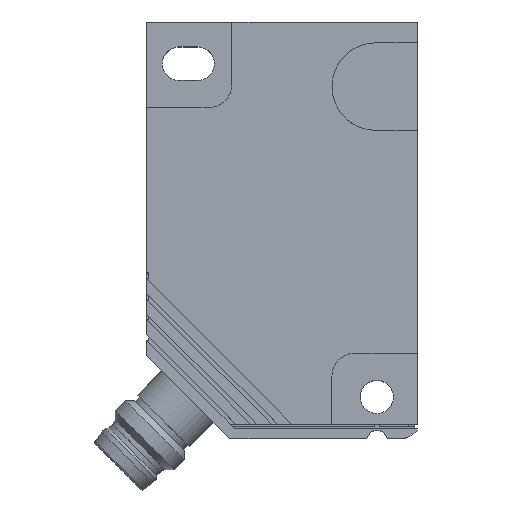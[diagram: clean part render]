
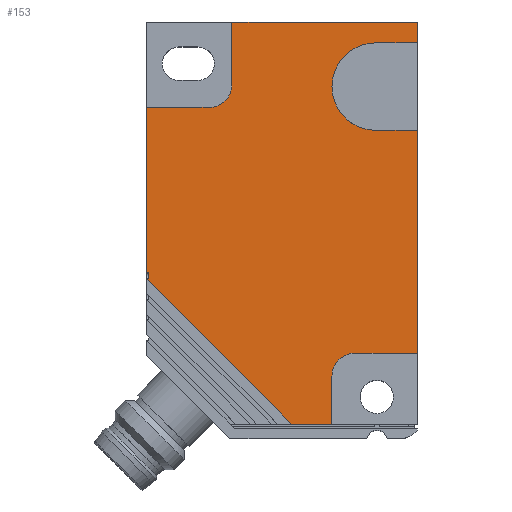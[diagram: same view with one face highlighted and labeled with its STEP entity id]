
A CAD part, top view. The second image highlights one B-rep face of the part: STEP entity #153.
In plain terms, the highlighted planar face has unit normal (0, 0, 1).
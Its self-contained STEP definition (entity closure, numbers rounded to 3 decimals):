
#153 = ADVANCED_FACE( '', ( #473 ), #474, .T. );
#473 = FACE_OUTER_BOUND( '', #971, .T. );
#474 = PLANE( '', #972 );
#971 = EDGE_LOOP( '', ( #1980, #1981, #1982, #1983, #1984, #1985, #1986, #1987, #1988, #1989, #1990, #1991, #1992, #1993, #1994, #1995, #1996, #1997, #1998 ) );
#972 = AXIS2_PLACEMENT_3D( '', #1999, #2000, #2001 );
#1980 = ORIENTED_EDGE( '', *, *, #3547, .T. );
#1981 = ORIENTED_EDGE( '', *, *, #3548, .T. );
#1982 = ORIENTED_EDGE( '', *, *, #3541, .T. );
#1983 = ORIENTED_EDGE( '', *, *, #3492, .F. );
#1984 = ORIENTED_EDGE( '', *, *, #3549, .T. );
#1985 = ORIENTED_EDGE( '', *, *, #3367, .T. );
#1986 = ORIENTED_EDGE( '', *, *, #3550, .T. );
#1987 = ORIENTED_EDGE( '', *, *, #3551, .T. );
#1988 = ORIENTED_EDGE( '', *, *, #3552, .T. );
#1989 = ORIENTED_EDGE( '', *, *, #3553, .F. );
#1990 = ORIENTED_EDGE( '', *, *, #3554, .T. );
#1991 = ORIENTED_EDGE( '', *, *, #3555, .T. );
#1992 = ORIENTED_EDGE( '', *, *, #3556, .T. );
#1993 = ORIENTED_EDGE( '', *, *, #3557, .F. );
#1994 = ORIENTED_EDGE( '', *, *, #3558, .F. );
#1995 = ORIENTED_EDGE( '', *, *, #3559, .T. );
#1996 = ORIENTED_EDGE( '', *, *, #3560, .T. );
#1997 = ORIENTED_EDGE( '', *, *, #3561, .T. );
#1998 = ORIENTED_EDGE( '', *, *, #3496, .F. );
#1999 = CARTESIAN_POINT( '', ( 0., 0., 5.75 ) );
#2000 = DIRECTION( '', ( 0., 0., 1. ) );
#2001 = DIRECTION( '', ( 1., 0., 0. ) );
#3367 = EDGE_CURVE( '', #4089, #4087, #4090, .T. );
#3492 = EDGE_CURVE( '', #4306, #4308, #4309, .T. );
#3496 = EDGE_CURVE( '', #4314, #4316, #4317, .T. );
#3541 = EDGE_CURVE( '', #4390, #4308, #4391, .T. );
#3547 = EDGE_CURVE( '', #4314, #4398, #4400, .T. );
#3548 = EDGE_CURVE( '', #4398, #4390, #4401, .T. );
#3549 = EDGE_CURVE( '', #4306, #4089, #4402, .T. );
#3550 = EDGE_CURVE( '', #4087, #4403, #4404, .T. );
#3551 = EDGE_CURVE( '', #4403, #4405, #4406, .T. );
#3552 = EDGE_CURVE( '', #4405, #4407, #4408, .T. );
#3553 = EDGE_CURVE( '', #4409, #4407, #4410, .T. );
#3554 = EDGE_CURVE( '', #4409, #4411, #4412, .T. );
#3555 = EDGE_CURVE( '', #4411, #4413, #4414, .T. );
#3556 = EDGE_CURVE( '', #4413, #4415, #4416, .T. );
#3557 = EDGE_CURVE( '', #4417, #4415, #4418, .T. );
#3558 = EDGE_CURVE( '', #4419, #4417, #4420, .T. );
#3559 = EDGE_CURVE( '', #4419, #4421, #4422, .T. );
#3560 = EDGE_CURVE( '', #4421, #4423, #4424, .T. );
#3561 = EDGE_CURVE( '', #4423, #4316, #4425, .T. );
#4087 = VERTEX_POINT( '', #5176 );
#4089 = VERTEX_POINT( '', #5179 );
#4090 = LINE( '', #5180, #5181 );
#4306 = VERTEX_POINT( '', #5512 );
#4308 = VERTEX_POINT( '', #5515 );
#4309 = LINE( '', #5516, #5517 );
#4314 = VERTEX_POINT( '', #5523 );
#4316 = VERTEX_POINT( '', #5526 );
#4317 = LINE( '', #5527, #5528 );
#4390 = VERTEX_POINT( '', #5637 );
#4391 = LINE( '', #5638, #5639 );
#4398 = VERTEX_POINT( '', #5649 );
#4400 = LINE( '', #5652, #5653 );
#4401 = LINE( '', #5654, #5655 );
#4402 = LINE( '', #5656, #5657 );
#4403 = VERTEX_POINT( '', #5658 );
#4404 = LINE( '', #5659, #5660 );
#4405 = VERTEX_POINT( '', #5661 );
#4406 = CIRCLE( '', #5662, 2.2 );
#4407 = VERTEX_POINT( '', #5663 );
#4408 = LINE( '', #5664, #5665 );
#4409 = VERTEX_POINT( '', #5666 );
#4410 = LINE( '', #5667, #5668 );
#4411 = VERTEX_POINT( '', #5669 );
#4412 = LINE( '', #5670, #5671 );
#4413 = VERTEX_POINT( '', #5672 );
#4414 = CIRCLE( '', #5673, 4.2 );
#4415 = VERTEX_POINT( '', #5674 );
#4416 = LINE( '', #5675, #5676 );
#4417 = VERTEX_POINT( '', #5677 );
#4418 = LINE( '', #5678, #5679 );
#4419 = VERTEX_POINT( '', #5680 );
#4420 = LINE( '', #5681, #5682 );
#4421 = VERTEX_POINT( '', #5683 );
#4422 = LINE( '', #5684, #5685 );
#4423 = VERTEX_POINT( '', #5686 );
#4424 = CIRCLE( '', #5687, 2.2 );
#4425 = LINE( '', #5688, #5689 );
#5176 = CARTESIAN_POINT( '', ( 4.8, 1.4, 5.75 ) );
#5179 = CARTESIAN_POINT( '', ( 0.95, 1.4, 5.75 ) );
#5180 = CARTESIAN_POINT( '', ( 0.95, 1.4, 5.75 ) );
#5181 = VECTOR( '', #6566, 1. );
#5512 = CARTESIAN_POINT( '', ( -13., 15.35, 5.75 ) );
#5515 = CARTESIAN_POINT( '', ( -13., 15.354, 5.75 ) );
#5516 = CARTESIAN_POINT( '', ( -13., 20., 5.75 ) );
#5517 = VECTOR( '', #6707, 1. );
#5523 = CARTESIAN_POINT( '', ( -13., 15.904, 5.75 ) );
#5526 = CARTESIAN_POINT( '', ( -13., 31.8, 5.75 ) );
#5527 = CARTESIAN_POINT( '', ( -13., 20., 5.75 ) );
#5528 = VECTOR( '', #6713, 1. );
#5637 = CARTESIAN_POINT( '', ( -12.8, 15.354, 5.75 ) );
#5638 = CARTESIAN_POINT( '', ( -6.4, 15.354, 5.75 ) );
#5639 = VECTOR( '', #6774, 1. );
#5649 = CARTESIAN_POINT( '', ( -12.8, 15.904, 5.75 ) );
#5652 = CARTESIAN_POINT( '', ( -6.4, 15.904, 5.75 ) );
#5653 = VECTOR( '', #6782, 1. );
#5654 = CARTESIAN_POINT( '', ( -12.8, 0., 5.75 ) );
#5655 = VECTOR( '', #6783, 1. );
#5656 = CARTESIAN_POINT( '', ( -13., 15.35, 5.75 ) );
#5657 = VECTOR( '', #6784, 1. );
#5658 = CARTESIAN_POINT( '', ( 4.8, 6., 5.75 ) );
#5659 = CARTESIAN_POINT( '', ( 4.8, 1.4, 5.75 ) );
#5660 = VECTOR( '', #6785, 1. );
#5661 = CARTESIAN_POINT( '', ( 7., 8.2, 5.75 ) );
#5662 = AXIS2_PLACEMENT_3D( '', #6786, #6787, #6788 );
#5663 = CARTESIAN_POINT( '', ( 13., 8.2, 5.75 ) );
#5664 = CARTESIAN_POINT( '', ( 7., 8.2, 5.75 ) );
#5665 = VECTOR( '', #6789, 1. );
#5666 = CARTESIAN_POINT( '', ( 13., 29.6, 5.75 ) );
#5667 = CARTESIAN_POINT( '', ( 13., 0.7, 5.75 ) );
#5668 = VECTOR( '', #6790, 1. );
#5669 = CARTESIAN_POINT( '', ( 9., 29.6, 5.75 ) );
#5670 = CARTESIAN_POINT( '', ( 13., 29.6, 5.75 ) );
#5671 = VECTOR( '', #6791, 1. );
#5672 = CARTESIAN_POINT( '', ( 9., 38., 5.75 ) );
#5673 = AXIS2_PLACEMENT_3D( '', #6792, #6793, #6794 );
#5674 = CARTESIAN_POINT( '', ( 13., 38., 5.75 ) );
#5675 = CARTESIAN_POINT( '', ( 9., 38., 5.75 ) );
#5676 = VECTOR( '', #6795, 1. );
#5677 = CARTESIAN_POINT( '', ( 13., 40., 5.75 ) );
#5678 = CARTESIAN_POINT( '', ( 13., 0.7, 5.75 ) );
#5679 = VECTOR( '', #6796, 1. );
#5680 = CARTESIAN_POINT( '', ( -4.8, 40., 5.75 ) );
#5681 = CARTESIAN_POINT( '', ( 6.5, 40., 5.75 ) );
#5682 = VECTOR( '', #6797, 1. );
#5683 = CARTESIAN_POINT( '', ( -4.8, 34., 5.75 ) );
#5684 = CARTESIAN_POINT( '', ( -4.8, 40., 5.75 ) );
#5685 = VECTOR( '', #6798, 1. );
#5686 = CARTESIAN_POINT( '', ( -7., 31.8, 5.75 ) );
#5687 = AXIS2_PLACEMENT_3D( '', #6799, #6800, #6801 );
#5688 = CARTESIAN_POINT( '', ( -7., 31.8, 5.75 ) );
#5689 = VECTOR( '', #6802, 1. );
#6566 = DIRECTION( '', ( 1., 0., 0. ) );
#6707 = DIRECTION( '', ( 0., 1., 0. ) );
#6713 = DIRECTION( '', ( 0., 1., 0. ) );
#6774 = DIRECTION( '', ( -1., 0., 0. ) );
#6782 = DIRECTION( '', ( 1., 0., 0. ) );
#6783 = DIRECTION( '', ( 0., -1., 0. ) );
#6784 = DIRECTION( '', ( 0.707, -0.707, 0. ) );
#6785 = DIRECTION( '', ( 0., 1., 0. ) );
#6786 = CARTESIAN_POINT( '', ( 7., 6., 5.75 ) );
#6787 = DIRECTION( '', ( 0., 0., -1. ) );
#6788 = DIRECTION( '', ( -1., 0., 0. ) );
#6789 = DIRECTION( '', ( 1., 0., 0. ) );
#6790 = DIRECTION( '', ( 0., -1., 0. ) );
#6791 = DIRECTION( '', ( -1., 0., 0. ) );
#6792 = CARTESIAN_POINT( '', ( 9., 33.8, 5.75 ) );
#6793 = DIRECTION( '', ( 0., 0., -1. ) );
#6794 = DIRECTION( '', ( 0., -1., 0. ) );
#6795 = DIRECTION( '', ( 1., 0., 0. ) );
#6796 = DIRECTION( '', ( 0., -1., 0. ) );
#6797 = DIRECTION( '', ( 1., 0., 0. ) );
#6798 = DIRECTION( '', ( 0., -1., 0. ) );
#6799 = CARTESIAN_POINT( '', ( -7., 34., 5.75 ) );
#6800 = DIRECTION( '', ( 0., 0., -1. ) );
#6801 = DIRECTION( '', ( 1., 0., 0. ) );
#6802 = DIRECTION( '', ( -1., 0., 0. ) );
